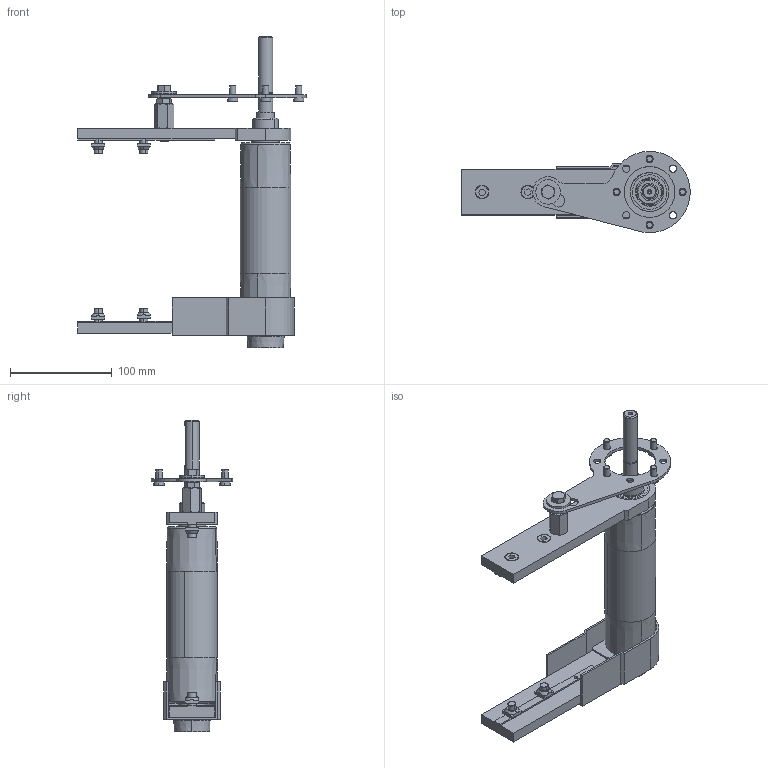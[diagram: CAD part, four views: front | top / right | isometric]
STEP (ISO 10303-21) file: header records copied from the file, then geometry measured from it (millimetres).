
FILE_DESCRIPTION (( 'STEP AP203' ), '1' );
FILE_NAME ('084.050.KD.30.150.STEP', '2018-05-23T13:06:27', ( 'Localadmin' ), ( 'Microsoft' ), 'SwSTEP 2.0', 'SolidWorks 2016', '' );
FILE_SCHEMA (( 'CONFIG_CONTROL_DESIGN' ));
Length unit declared in the file: millimetre
Products named in the file (21): 084.000.A02_CON DADO; 084.302.000 DADI ALUSIC 13x13_084.302.004; 084.802.017_084.802.017; 084.050.KD.30.150; 084.802.027; 084.811.004; Parte104^084.000.A02; 084.807.005; 084.815.102_Default<A macchina>; GRANI A PUNTA PIATTA UNI 5923_M8x25 UNI 5923; 084.810.001; 084.301.000 VITI ALUSIC_084.301.010; VITI TSEI UNI 5933_M4x12 UNI 5933; DADI ESAGONALI RIBASSATI UNI 5589_M8 UNI 5589; 084.811.001; RONDELLE FASCIA LARGA UNI 6593_8.4x24 UNI 6593; 084.802.023_084.802.023; 084.807.002_084.807.002; VITI TE UNI 5739_M8x25 UNI 5739; 084.301.000 VITI ALUSIC_084.301.003; 084.807.003_084.807.003
Assembly tree (32 placements, depth 3):
  084.050.KD.30.150
    084.807.002_084.807.002
    084.807.003_084.807.003
    084.802.017_084.802.017  x2
    084.811.004
    084.815.102_Default<A macchina>
    084.810.001  x2
    VITI TSEI UNI 5933_M4x12 UNI 5933  x2
    084.811.001
    084.802.023_084.802.023
    084.301.000 VITI ALUSIC_084.301.003  x4
    084.302.000 DADI ALUSIC 13x13_084.302.004  x4
    084.000.A02_CON DADO
      084.802.027
      084.807.005
      Parte104^084.000.A02
      GRANI A PUNTA PIATTA UNI 5923_M8x25 UNI 5923
      084.301.000 VITI ALUSIC_084.301.010  x4
      DADI ESAGONALI RIBASSATI UNI 5589_M8 UNI 5589
      RONDELLE FASCIA LARGA UNI 6593_8.4x24 UNI 6593
      VITI TE UNI 5739_M8x25 UNI 5739
Bounding box: 225 x 80 x 306.5 mm (x, y, z)
Volume: 438357.5 mm3; surface area: 240655.9 mm2
Topology: 33 solids, 35 shells, 846 faces, 2056 edges, 1325 vertices
Faces by surface type: plane 382, cylinder 271, cone 99, torus 78, sphere 8, bspline 8
Entity records: 20621 total; most frequent: CARTESIAN_POINT 3667, DIRECTION 3188, ORIENTED_EDGE 2880, EDGE_CURVE 1440, AXIS2_PLACEMENT_3D 1238, VERTEX_POINT 933, LINE 712, VECTOR 712
